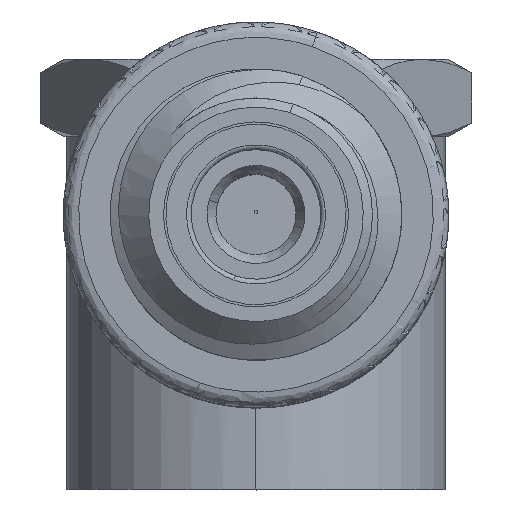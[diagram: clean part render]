
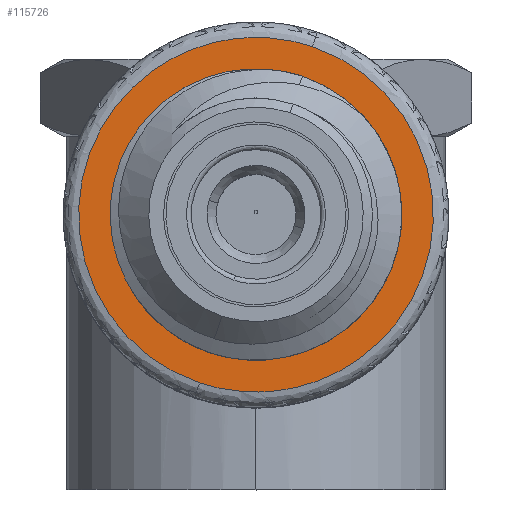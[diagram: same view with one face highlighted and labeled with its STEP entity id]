
A CAD part, top view. The second image highlights one B-rep face of the part: STEP entity #115726.
In plain terms, the highlighted planar face has unit normal (0, 0, 1).
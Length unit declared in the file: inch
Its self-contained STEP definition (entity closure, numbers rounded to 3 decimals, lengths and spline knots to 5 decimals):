
#3850 = CARTESIAN_POINT ( 'NONE',  ( -0.03658, 0.06497, 2.46603 ) ) ;
#3963 =( BOUNDED_CURVE ( )  B_SPLINE_CURVE ( 3, ( #3850, #103506, #78217, #22603 ),
 .UNSPECIFIED., .F., .F. ) 
 B_SPLINE_CURVE_WITH_KNOTS ( ( 4, 4 ),
 ( 0., 1. ),
 .UNSPECIFIED. ) 
 CURVE ( )  GEOMETRIC_REPRESENTATION_ITEM ( )  RATIONAL_B_SPLINE_CURVE ( ( 1., 0.333, 0.333, 1. ) ) 
 REPRESENTATION_ITEM ( '' )  );
#4117 = CARTESIAN_POINT ( 'NONE',  ( -0.03658, 0.06497, 2.46603 ) ) ;
#4460 = PLANE ( 'NONE',  #58333 ) ;
#5106 = AXIS2_PLACEMENT_3D ( 'NONE', #66825, #11171, #76165 ) ;
#9584 = DIRECTION ( 'NONE',  ( 0., 0., 1. ) ) ;
#11171 = DIRECTION ( 'NONE',  ( 0., 0., 1. ) ) ;
#15133 = ORIENTED_EDGE ( 'NONE', *, *, #77263, .F. ) ;
#20267 = DIRECTION ( 'NONE',  ( -0.318, -0.948, 0. ) ) ;
#20792 = CIRCLE ( 'NONE', #5106, 0.0725 ) ;
#22603 = CARTESIAN_POINT ( 'NONE',  ( 0.03658, 0.28303, 2.46603 ) ) ;
#22924 = ORIENTED_EDGE ( 'NONE', *, *, #117033, .F. ) ;
#24766 = FACE_OUTER_BOUND ( 'NONE', #71820, .T. ) ;
#27053 = CARTESIAN_POINT ( 'NONE',  ( 0.02306, 0.24274, 2.46603 ) ) ;
#29042 = VERTEX_POINT ( 'NONE', #27053 ) ;
#29987 = CARTESIAN_POINT ( 'NONE',  ( -0.02306, 0.10526, 2.46603 ) ) ;
#31955 = CARTESIAN_POINT ( 'NONE',  ( 0.03658, 0.28303, 2.46603 ) ) ;
#41289 = CARTESIAN_POINT ( 'NONE',  ( 0.18148, -0.00818, 2.46603 ) ) ;
#41877 = CARTESIAN_POINT ( 'NONE',  ( 0.02021, 0.23423, 2.46603 ) ) ;
#47837 = VERTEX_POINT ( 'NONE', #4117 ) ;
#54182 = ORIENTED_EDGE ( 'NONE', *, *, #86931, .F. ) ;
#58333 = AXIS2_PLACEMENT_3D ( 'NONE', #41877, #75901, #20267 ) ;
#59510 =( BOUNDED_CURVE ( )  B_SPLINE_CURVE ( 3, ( #31955, #104749, #41289, #106395 ),
 .UNSPECIFIED., .F., .F. ) 
 B_SPLINE_CURVE_WITH_KNOTS ( ( 4, 4 ),
 ( 0., 1. ),
 .UNSPECIFIED. ) 
 CURVE ( )  GEOMETRIC_REPRESENTATION_ITEM ( )  RATIONAL_B_SPLINE_CURVE ( ( 1., 0.333, 0.333, 1. ) ) 
 REPRESENTATION_ITEM ( '' )  );
#65240 = CARTESIAN_POINT ( 'NONE',  ( 0., 0.174, 2.46603 ) ) ;
#65563 = ORIENTED_EDGE ( 'NONE', *, *, #92988, .F. ) ;
#66825 = CARTESIAN_POINT ( 'NONE',  ( 0., 0.174, 2.46603 ) ) ;
#71820 = EDGE_LOOP ( 'NONE', ( #65563, #15133 ) ) ;
#73030 = EDGE_LOOP ( 'NONE', ( #54182, #22924 ) ) ;
#74573 = DIRECTION ( 'NONE',  ( 0.318, 0.948, 0. ) ) ;
#75901 = DIRECTION ( 'NONE',  ( 0., 0., -1. ) ) ;
#76165 = DIRECTION ( 'NONE',  ( 0.318, 0.948, 0. ) ) ;
#77263 = EDGE_CURVE ( 'NONE', #47837, #99851, #3963, .T. ) ;
#78217 = CARTESIAN_POINT ( 'NONE',  ( -0.18148, 0.35618, 2.46603 ) ) ;
#86931 = EDGE_CURVE ( 'NONE', #29042, #108844, #20792, .T. ) ;
#92988 = EDGE_CURVE ( 'NONE', #99851, #47837, #59510, .T. ) ;
#97481 = AXIS2_PLACEMENT_3D ( 'NONE', #65240, #9584, #74573 ) ;
#99851 = VERTEX_POINT ( 'NONE', #114700 ) ;
#101190 = CIRCLE ( 'NONE', #97481, 0.0725 ) ;
#103506 = CARTESIAN_POINT ( 'NONE',  ( -0.25463, 0.13812, 2.46603 ) ) ;
#104749 = CARTESIAN_POINT ( 'NONE',  ( 0.25463, 0.20988, 2.46603 ) ) ;
#106395 = CARTESIAN_POINT ( 'NONE',  ( -0.03658, 0.06497, 2.46603 ) ) ;
#108844 = VERTEX_POINT ( 'NONE', #29987 ) ;
#114700 = CARTESIAN_POINT ( 'NONE',  ( 0.03658, 0.28303, 2.46603 ) ) ;
#115726 = ADVANCED_FACE ( 'NONE', ( #24766, #120824 ), #4460, .F. ) ;
#117033 = EDGE_CURVE ( 'NONE', #108844, #29042, #101190, .T. ) ;
#120824 = FACE_BOUND ( 'NONE', #73030, .T. ) ;
